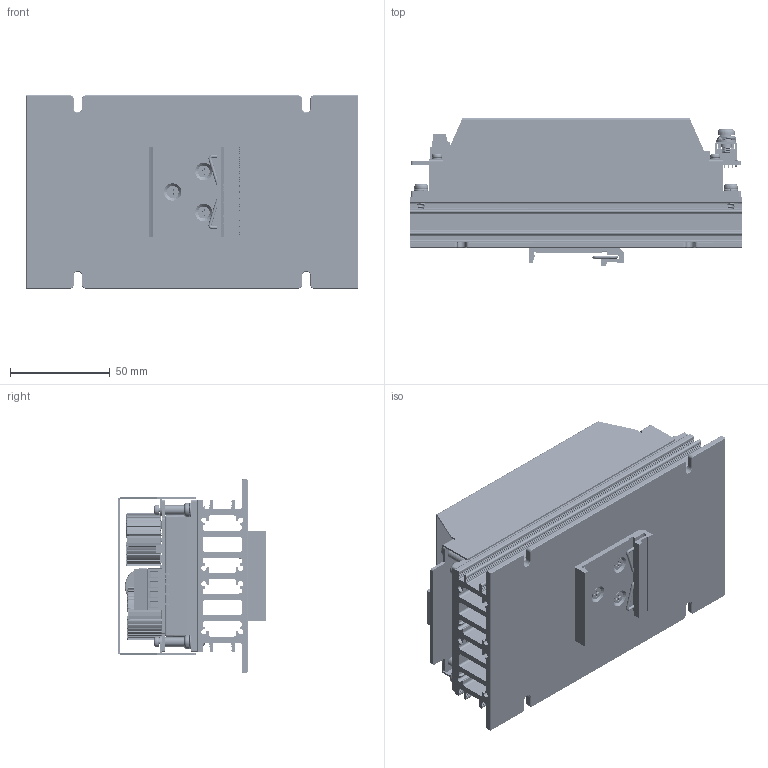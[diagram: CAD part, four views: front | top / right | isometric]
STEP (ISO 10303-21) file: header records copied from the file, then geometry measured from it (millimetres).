
FILE_DESCRIPTION (( 'STEP AP203' ), '1' );
FILE_NAME ('CHB300W-110S CMFD HD 12,24,28,48V成品圖2025.01.03.STEP', '2025-01-03T08:46:32', ( '' ), ( '' ), 'SwSTEP 2.0', 'SolidWorks 2020', '' );
FILE_SCHEMA (( 'CONFIG_CONTROL_DESIGN' ));
Products named in the file (1): CHB300W-110S CMFD HD 12,24,28,48V成品圖2025.01.03
Bounding box: 166 x 74.1 x 96.52 mm (x, y, z)
Volume: 319417.7 mm3; surface area: 216162.9 mm2
Topology: 18 solids, 40 shells, 3889 faces, 10705 edges, 6865 vertices
Faces by surface type: plane 1639, cylinder 1175, torus 612, bspline 313, cone 142, sphere 8
Full cylindrical faces by diameter (mm): 0.45 x24, 0.8 x4, 1 x13, 1.2 x5, 1.5 x8, 2 x5, 2.2 x8, 3.2 x11, 3.239 x3, 3.25 x1, 3.264 x1, 3.8 x4, 3.9 x40, 4 x9, 4.2 x3, 4.3 x4, 4.5 x4, 4.6 x4, 4.7 x4, 5 x8, 5.3 x2, 5.5 x2, 6 x3, 7 x4, 10 x2, 12 x1, 12.8 x1, 13 x1, 14 x2, 18.3 x2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
Entity records: 217084 total; most frequent: CARTESIAN_POINT 127636, ORIENTED_EDGE 20242, DIRECTION 16391, EDGE_CURVE 10121, VERTEX_POINT 6635, AXIS2_PLACEMENT_3D 6035, EDGE_LOOP 4416, VECTOR 4321
